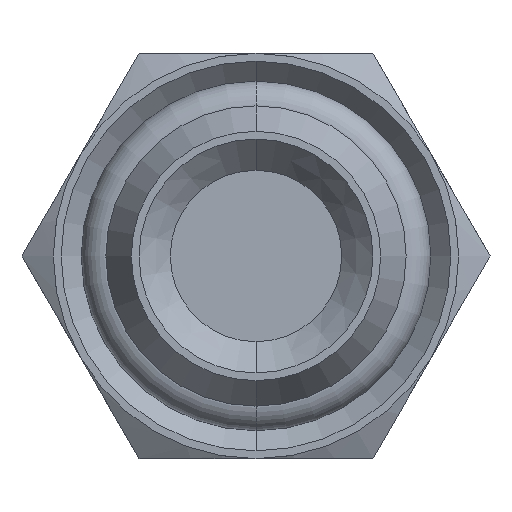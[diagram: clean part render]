
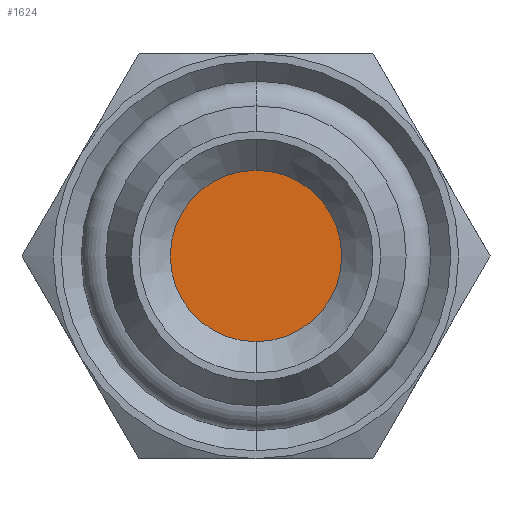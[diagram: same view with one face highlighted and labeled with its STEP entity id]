
A CAD part, front view. The second image highlights one B-rep face of the part: STEP entity #1624.
In plain terms, the highlighted planar face has unit normal (0, -1, 0).
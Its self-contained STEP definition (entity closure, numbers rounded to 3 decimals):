
#207 = FACE_OUTER_BOUND ( 'NONE', #1075, .T. ) ;
#312 = CIRCLE ( 'NONE', #1386, 2.75 ) ;
#315 = CIRCLE ( 'NONE', #1387, 2.75 ) ;
#372 = VERTEX_POINT ( 'NONE', #2591 ) ;
#375 = VERTEX_POINT ( 'NONE', #2499 ) ;
#797 = ORIENTED_EDGE ( 'NONE', *, *, #1774, .T. ) ;
#798 = ORIENTED_EDGE ( 'NONE', *, *, #1777, .T. ) ;
#1075 = EDGE_LOOP ( 'NONE', ( #798, #797 ) ) ;
#1168 = DIRECTION ( 'NONE',  ( 0., 0., 1. ) ) ;
#1169 = DIRECTION ( 'NONE',  ( 0., -1., 0. ) ) ;
#1170 = CARTESIAN_POINT ( 'NONE',  ( 0., 3.823, 0. ) ) ;
#1181 = DIRECTION ( 'NONE',  ( 0., 0., 1. ) ) ;
#1182 = DIRECTION ( 'NONE',  ( 0., -1., 0. ) ) ;
#1183 = CARTESIAN_POINT ( 'NONE',  ( 0., 3.823, 0. ) ) ;
#1328 = AXIS2_PLACEMENT_3D ( 'NONE', #2067, #2066, #2065 ) ;
#1386 = AXIS2_PLACEMENT_3D ( 'NONE', #1183, #1182, #1181 ) ;
#1387 = AXIS2_PLACEMENT_3D ( 'NONE', #1170, #1169, #1168 ) ;
#1624 = ADVANCED_FACE ( 'NONE', ( #207 ), #2095, .F. ) ;
#1774 = EDGE_CURVE ( 'NONE', #372, #375, #312, .T. ) ;
#1777 = EDGE_CURVE ( 'NONE', #375, #372, #315, .T. ) ;
#2065 = DIRECTION ( 'NONE',  ( 0., 0., 1. ) ) ;
#2066 = DIRECTION ( 'NONE',  ( 0., 1., 0. ) ) ;
#2067 = CARTESIAN_POINT ( 'NONE',  ( 0., 3.823, 0. ) ) ;
#2095 = PLANE ( 'NONE',  #1328 ) ;
#2499 = CARTESIAN_POINT ( 'NONE',  ( 0., 3.823, -2.75 ) ) ;
#2591 = CARTESIAN_POINT ( 'NONE',  ( 0., 3.823, 2.75 ) ) ;
